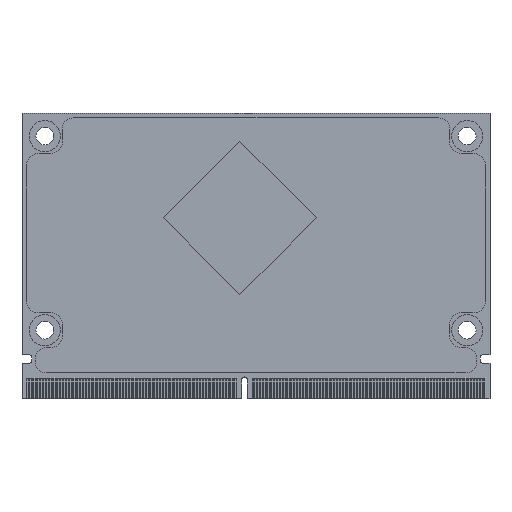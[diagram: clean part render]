
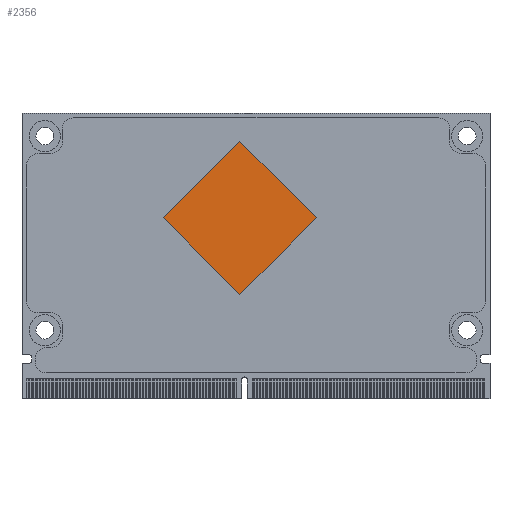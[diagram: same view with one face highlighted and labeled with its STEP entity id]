
A CAD part, top view. The second image highlights one B-rep face of the part: STEP entity #2356.
In plain terms, the highlighted planar face has unit normal (0, 0, 1).
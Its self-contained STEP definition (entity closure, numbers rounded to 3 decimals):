
#2320=AXIS2_PLACEMENT_3D('Plane Axis2P3D',#2317,#2318,#2319) ;
#2317=CARTESIAN_POINT('Axis2P3D Location',(38.163,18.185,1.33)) ;
#2322=CARTESIAN_POINT('Line Origine',(44.881,38.408,1.33)) ;
#2326=CARTESIAN_POINT('Vertex',(51.598,31.691,1.33)) ;
#2328=CARTESIAN_POINT('Vertex',(38.164,45.126,1.33)) ;
#2331=CARTESIAN_POINT('Line Origine',(31.446,38.408,1.33)) ;
#2335=CARTESIAN_POINT('Vertex',(24.729,31.691,1.33)) ;
#2338=CARTESIAN_POINT('Line Origine',(31.446,24.973,1.33)) ;
#2342=CARTESIAN_POINT('Vertex',(38.163,18.256,1.33)) ;
#2345=CARTESIAN_POINT('Line Origine',(44.881,24.973,1.33)) ;
#2318=DIRECTION('Axis2P3D Direction',(0.,0.,1.)) ;
#2319=DIRECTION('Axis2P3D XDirection',(-0.707,0.707,0.)) ;
#2323=DIRECTION('Vector Direction',(-0.707,0.707,0.)) ;
#2332=DIRECTION('Vector Direction',(-0.707,-0.707,0.)) ;
#2339=DIRECTION('Vector Direction',(-0.707,0.707,0.)) ;
#2346=DIRECTION('Vector Direction',(-0.707,-0.707,0.)) ;
#2324=VECTOR('Line Direction',#2323,1.) ;
#2333=VECTOR('Line Direction',#2332,1.) ;
#2340=VECTOR('Line Direction',#2339,1.) ;
#2347=VECTOR('Line Direction',#2346,1.) ;
#2351=ORIENTED_EDGE('',*,*,#2330,.T.) ;
#2352=ORIENTED_EDGE('',*,*,#2337,.F.) ;
#2353=ORIENTED_EDGE('',*,*,#2344,.F.) ;
#2354=ORIENTED_EDGE('',*,*,#2349,.T.) ;
#2356=ADVANCED_FACE('9\\MANIFOLD_SOLID_BREP #1991',(#2355),#2321,.T.) ;
#2330=EDGE_CURVE('',#2327,#2329,#2325,.T.) ;
#2337=EDGE_CURVE('',#2336,#2329,#2334,.F.) ;
#2344=EDGE_CURVE('',#2343,#2336,#2341,.T.) ;
#2349=EDGE_CURVE('',#2343,#2327,#2348,.F.) ;
#2350=EDGE_LOOP('',(#2351,#2352,#2353,#2354)) ;
#2355=FACE_OUTER_BOUND('',#2350,.T.) ;
#2325=LINE('Line',#2322,#2324) ;
#2334=LINE('Line',#2331,#2333) ;
#2341=LINE('Line',#2338,#2340) ;
#2348=LINE('Line',#2345,#2347) ;
#2321=PLANE('Plane',#2320) ;
#2327=VERTEX_POINT('',#2326) ;
#2329=VERTEX_POINT('',#2328) ;
#2336=VERTEX_POINT('',#2335) ;
#2343=VERTEX_POINT('',#2342) ;
